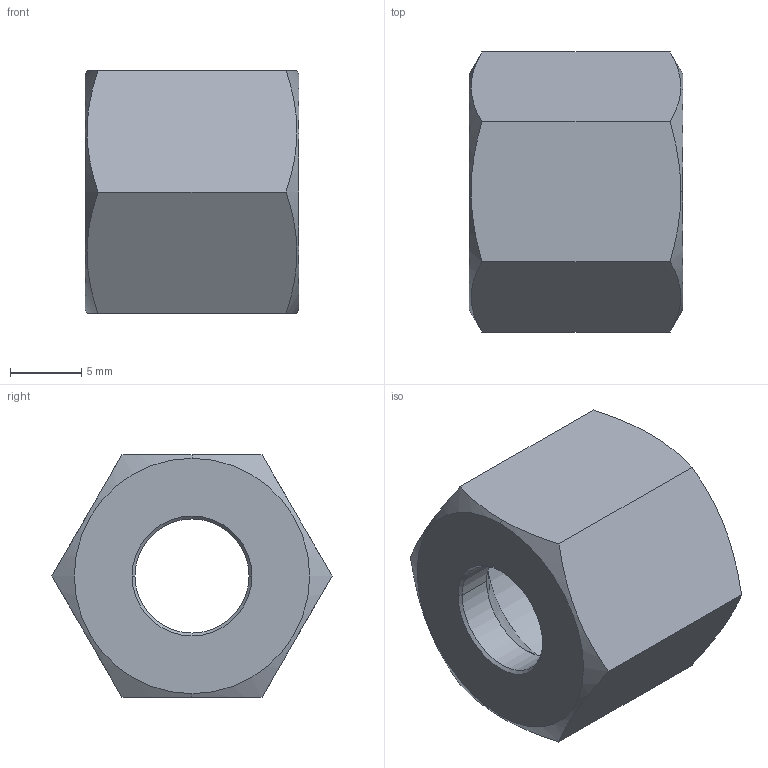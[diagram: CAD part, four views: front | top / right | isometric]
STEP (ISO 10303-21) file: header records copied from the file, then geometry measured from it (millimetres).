
FILE_DESCRIPTION((''),'2;1');
FILE_NAME('100205.stp','2006-03-06T15:11:44',('Dario Falcomer'),('CAST S.p.A.'),'AutoCAD STEP 2000i','AutoCAD 2000i',', , ');
FILE_SCHEMA(('CONFIG_CONTROL_DESIGN'));
Length unit declared in the file: millimetre
Products named in the file (2): 100205.0; CHIAVE_DADI#0
Assembly tree (1 placements, depth 2):
  100205.0
    CHIAVE_DADI#0
Bounding box: 15 x 19.63 x 17 mm (x, y, z)
Volume: 2127.2 mm3; surface area: 1713.5 mm2
Topology: 1 solids, 1 shells, 22 faces, 52 edges, 32 vertices
Faces by surface type: cone 10, plane 8, cylinder 4
Entity records: 725 total; most frequent: CARTESIAN_POINT 140, ORIENTED_EDGE 104, DIRECTION 100, EDGE_CURVE 52, AXIS2_PLACEMENT_3D 40, VERTEX_POINT 32, EDGE_LOOP 24, FACE_OUTER_BOUND 22
